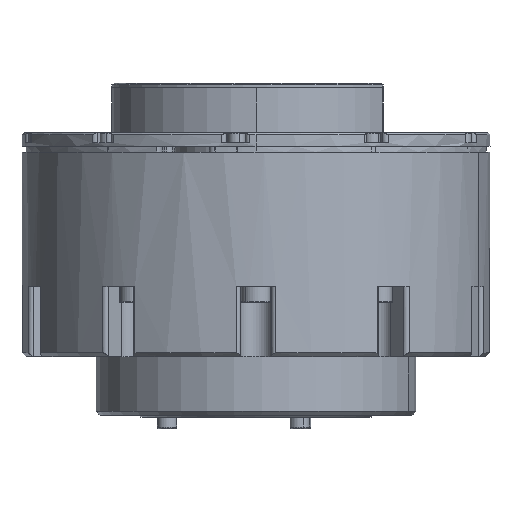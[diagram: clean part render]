
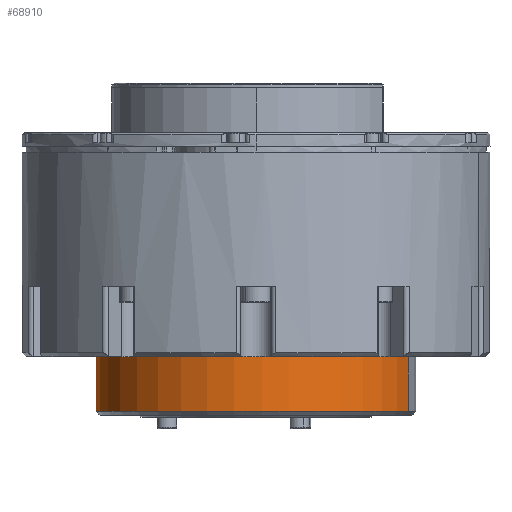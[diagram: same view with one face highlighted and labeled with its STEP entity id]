
A CAD part, front view. The second image highlights one B-rep face of the part: STEP entity #68910.
In plain terms, the highlighted cylindrical face has radius 41 mm (diameter 82 mm), a partial arc.
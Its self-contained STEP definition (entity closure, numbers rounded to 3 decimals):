
#2025 = ORIENTED_EDGE ( 'NONE', *, *, #102086, .T. ) ;
#7327 = CARTESIAN_POINT ( 'NONE',  ( 38.993, -12.67, -43.2 ) ) ;
#7702 = ORIENTED_EDGE ( 'NONE', *, *, #73435, .T. ) ;
#8294 = CARTESIAN_POINT ( 'NONE',  ( -38.993, 12.67, -43.2 ) ) ;
#8632 = DIRECTION ( 'NONE',  ( -0.951, 0.309, 0. ) ) ;
#18375 = VERTEX_POINT ( 'NONE', #83271 ) ;
#18981 = CARTESIAN_POINT ( 'NONE',  ( 38.993, -12.67, -28.2 ) ) ;
#22257 = VERTEX_POINT ( 'NONE', #88733 ) ;
#25261 = DIRECTION ( 'NONE',  ( 0., 0., -1. ) ) ;
#26900 = CARTESIAN_POINT ( 'NONE',  ( 0., 0., -28.2 ) ) ;
#29923 = ORIENTED_EDGE ( 'NONE', *, *, #105101, .F. ) ;
#30273 = CARTESIAN_POINT ( 'NONE',  ( -38.993, 12.67, -42.2 ) ) ;
#33844 = DIRECTION ( 'NONE',  ( 0.951, -0.309, 0. ) ) ;
#39238 = AXIS2_PLACEMENT_3D ( 'NONE', #26900, #25261, #92508 ) ;
#41558 = DIRECTION ( 'NONE',  ( 0., 0., -1. ) ) ;
#42657 = AXIS2_PLACEMENT_3D ( 'NONE', #103737, #77634, #8632 ) ;
#45977 = DIRECTION ( 'NONE',  ( 0., 0., -1. ) ) ;
#53467 = EDGE_LOOP ( 'NONE', ( #7702, #92341, #2025, #29923 ) ) ;
#53703 = VERTEX_POINT ( 'NONE', #18981 ) ;
#54099 = VECTOR ( 'NONE', #101358, 1000. ) ;
#55045 = FACE_OUTER_BOUND ( 'NONE', #53467, .T. ) ;
#58832 = CARTESIAN_POINT ( 'NONE',  ( 0., 0., -43.2 ) ) ;
#68910 = ADVANCED_FACE ( 'NONE', ( #55045 ), #80652, .T. ) ;
#73039 = CIRCLE ( 'NONE', #39238, 41. ) ;
#73435 = EDGE_CURVE ( 'NONE', #53703, #18375, #73039, .T. ) ;
#75771 = LINE ( 'NONE', #7327, #54099 ) ;
#77634 = DIRECTION ( 'NONE',  ( 0., 0., 1. ) ) ;
#78256 = LINE ( 'NONE', #8294, #88694 ) ;
#80652 = CYLINDRICAL_SURFACE ( 'NONE', #105727, 41. ) ;
#81271 = EDGE_CURVE ( 'NONE', #18375, #106000, #78256, .T. ) ;
#83271 = CARTESIAN_POINT ( 'NONE',  ( -38.993, 12.67, -28.2 ) ) ;
#88694 = VECTOR ( 'NONE', #45977, 1000. ) ;
#88733 = CARTESIAN_POINT ( 'NONE',  ( 38.993, -12.67, -42.2 ) ) ;
#92341 = ORIENTED_EDGE ( 'NONE', *, *, #81271, .T. ) ;
#92508 = DIRECTION ( 'NONE',  ( 0.951, -0.309, 0. ) ) ;
#101358 = DIRECTION ( 'NONE',  ( 0., 0., -1. ) ) ;
#102086 = EDGE_CURVE ( 'NONE', #106000, #22257, #103098, .T. ) ;
#103098 = CIRCLE ( 'NONE', #42657, 41. ) ;
#103737 = CARTESIAN_POINT ( 'NONE',  ( 0., 0., -42.2 ) ) ;
#105101 = EDGE_CURVE ( 'NONE', #53703, #22257, #75771, .T. ) ;
#105727 = AXIS2_PLACEMENT_3D ( 'NONE', #58832, #41558, #33844 ) ;
#106000 = VERTEX_POINT ( 'NONE', #30273 ) ;
